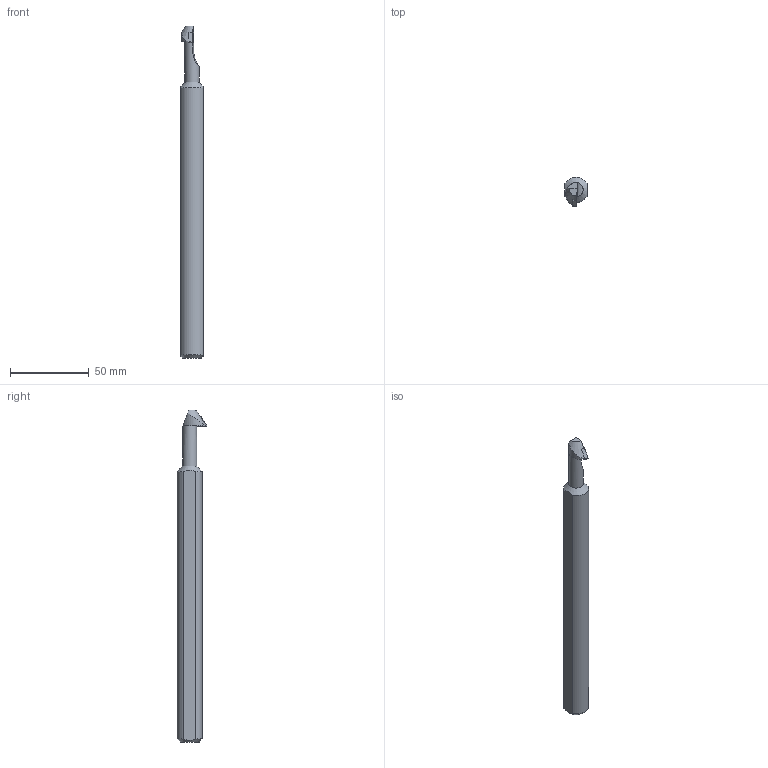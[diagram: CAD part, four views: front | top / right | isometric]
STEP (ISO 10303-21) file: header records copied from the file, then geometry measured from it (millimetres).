
FILE_DESCRIPTION(/* description */ (''),/* implementation_level */ '2;1');
FILE_NAME(/* name */ 'S16R-SDZCR-07-HAAS.stp',/* time_stamp */ '2021-09-29T11:13:00+09:00',/* author */ (''),/* organization */ (''),/* preprocessor_version */ 'ST-DEVELOPER v15',/* originating_system */ 'SIEMENS PLM Software NX 8.5',/* authorisation */ '');
FILE_SCHEMA (('AP203_CONFIGURATION_CONTROLLED_3D_DESIGN_OF_MECHANICAL_PARTS_AND_ASSEMBLIES_MIM_LF { 1 0 10303 403 2 1 2}'));
Length unit declared in the file: millimetre
Products named in the file (1): user6E2824B8691z
Bounding box: 14 x 18.98 x 210.63 mm (x, y, z)
Volume: 34990.7 mm3; surface area: 10041.4 mm2
Topology: 2 solids, 2 shells, 24 faces, 59 edges, 39 vertices
Faces by surface type: plane 12, cone 6, cylinder 5, bspline 1
Full cylindrical faces by diameter (mm): 4 x1, 9 x1
Entity records: 822 total; most frequent: CARTESIAN_POINT 206, DIRECTION 106, ORIENTED_EDGE 102, EDGE_CURVE 51, AXIS2_PLACEMENT_3D 41, VERTEX_POINT 35, EDGE_LOOP 30, ADVANCED_FACE 24
